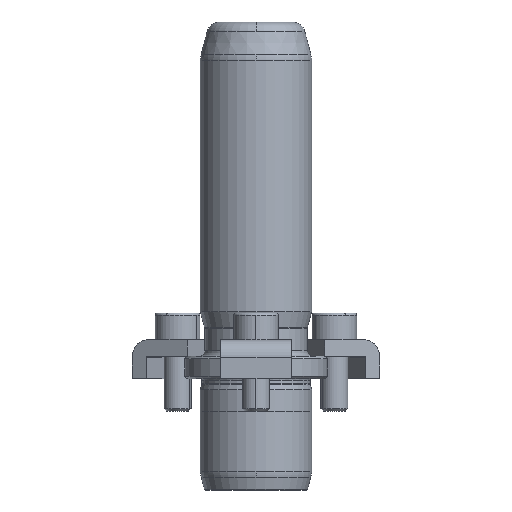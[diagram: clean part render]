
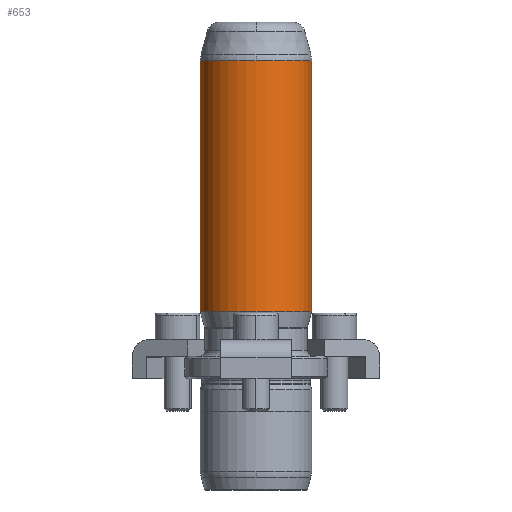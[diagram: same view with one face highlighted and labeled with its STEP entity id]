
A CAD part, front view. The second image highlights one B-rep face of the part: STEP entity #653.
In plain terms, the highlighted cylindrical face has radius 12.5 mm (diameter 25 mm), a partial arc.
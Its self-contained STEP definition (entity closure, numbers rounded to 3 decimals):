
#566=CARTESIAN_POINT('',(0.0,-12.5,71.342));
#567=VERTEX_POINT('',#566);
#594=CARTESIAN_POINT('',(-12.5,0.,71.342));
#595=VERTEX_POINT('',#594);
#603=CARTESIAN_POINT('',(0.0,0.,71.342));
#604=DIRECTION('',(0.0,0.0,1.0));
#605=DIRECTION('',(1.0,0.0,0.0));
#606=AXIS2_PLACEMENT_3D('',#603,#604,#605);
#607=CIRCLE('',#606,12.5);
#608=EDGE_CURVE('',#595,#567,#607,.T.);
#613=CARTESIAN_POINT('',(0.0,0.,43.171));
#614=DIRECTION('',(0.0,0.,1.0));
#615=DIRECTION('',(1.0,0.0,0.0));
#616=AXIS2_PLACEMENT_3D('',#613,#614,#615);
#617=CYLINDRICAL_SURFACE('',#616,12.5);
#618=CARTESIAN_POINT('',(12.5,0.,71.342));
#619=VERTEX_POINT('',#618);
#620=CARTESIAN_POINT('',(12.5,0.,15.0));
#621=VERTEX_POINT('',#620);
#622=CARTESIAN_POINT('',(12.5,0.,71.342));
#623=DIRECTION('',(0.0,0.0,-1.0));
#624=VECTOR('',#623,56.342);
#625=LINE('',#622,#624);
#626=EDGE_CURVE('',#619,#621,#625,.T.);
#627=ORIENTED_EDGE('',*,*,#626,.F.);
#628=CARTESIAN_POINT('',(0.0,0.,71.342));
#629=DIRECTION('',(0.0,0.0,1.0));
#630=DIRECTION('',(1.0,0.0,0.0));
#631=AXIS2_PLACEMENT_3D('',#628,#629,#630);
#632=CIRCLE('',#631,12.5);
#633=EDGE_CURVE('',#567,#619,#632,.T.);
#634=ORIENTED_EDGE('',*,*,#633,.F.);
#635=ORIENTED_EDGE('',*,*,#608,.F.);
#636=CARTESIAN_POINT('',(-12.5,0.,15.0));
#637=VERTEX_POINT('',#636);
#638=CARTESIAN_POINT('',(-12.5,0.,71.342));
#639=DIRECTION('',(0.0,0.0,-1.0));
#640=VECTOR('',#639,56.342);
#641=LINE('',#638,#640);
#642=EDGE_CURVE('',#595,#637,#641,.T.);
#643=ORIENTED_EDGE('',*,*,#642,.T.);
#644=CARTESIAN_POINT('',(0.0,0.,15.0));
#645=DIRECTION('',(0.0,0.0,1.0));
#646=DIRECTION('',(1.0,0.0,0.0));
#647=AXIS2_PLACEMENT_3D('',#644,#645,#646);
#648=CIRCLE('',#647,12.5);
#649=EDGE_CURVE('',#637,#621,#648,.T.);
#650=ORIENTED_EDGE('',*,*,#649,.T.);
#651=EDGE_LOOP('',(#627,#634,#635,#643,#650));
#652=FACE_OUTER_BOUND('',#651,.T.);
#653=ADVANCED_FACE('',(#652),#617,.T.);
